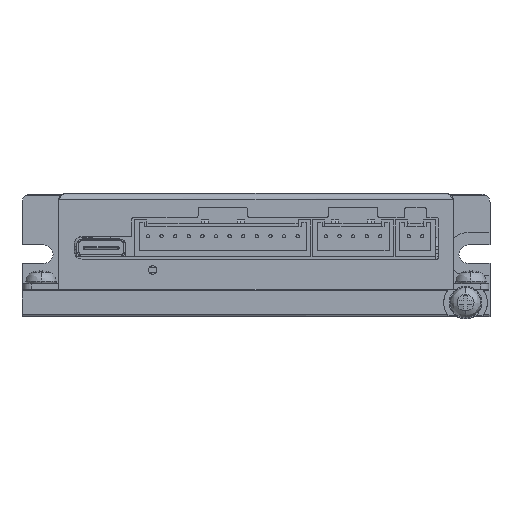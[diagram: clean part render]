
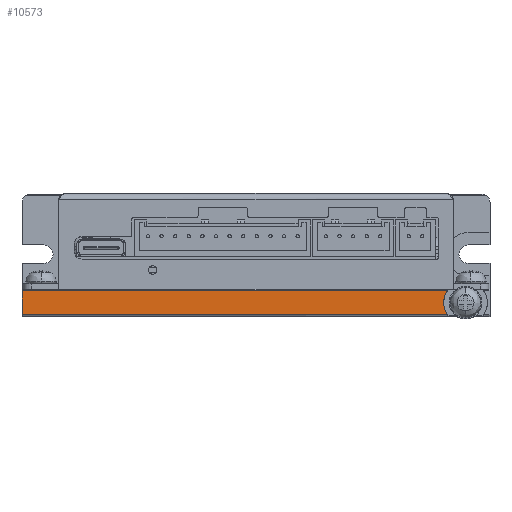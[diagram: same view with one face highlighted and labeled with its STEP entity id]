
A CAD part, top view. The second image highlights one B-rep face of the part: STEP entity #10573.
In plain terms, the highlighted planar face has unit normal (0, 0, 1).
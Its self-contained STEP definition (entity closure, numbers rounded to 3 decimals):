
#668=CARTESIAN_POINT('',(35.159,-0.3,55.6));
#670=DIRECTION('',(-1.,0.,0.));
#671=VECTOR('',#670,78.159);
#672=CARTESIAN_POINT('',(35.159,-0.3,55.6));
#673=LINE('',#672,#671);
#1044=DIRECTION('',(1.,0.,0.));
#1045=VECTOR('',#1044,78.159);
#1046=CARTESIAN_POINT('',(-43.,-4.7,55.6));
#1047=LINE('',#1046,#1045);
#1048=CARTESIAN_POINT('',(35.159,-4.7,55.6));
#2930=CARTESIAN_POINT('',(38.5,-2.5,55.6));
#2931=DIRECTION('',(0.,0.,1.));
#2932=DIRECTION('',(-0.835,0.55,0.));
#2933=AXIS2_PLACEMENT_3D('',#2930,#2931,#2932);
#2935=CARTESIAN_POINT('',(38.5,-2.5,55.6));
#2936=DIRECTION('',(0.,0.,1.));
#2937=DIRECTION('',(-1.,0.,0.));
#2938=AXIS2_PLACEMENT_3D('',#2935,#2936,#2937);
#2940=DIRECTION('',(0.,1.,0.));
#2941=VECTOR('',#2940,4.4);
#2942=CARTESIAN_POINT('',(-43.,-4.7,55.6));
#2943=LINE('',#2942,#2941);
#5669=CARTESIAN_POINT('',(-43.,-0.3,55.6));
#5670=VERTEX_POINT('',#5669);
#5671=CARTESIAN_POINT('',(-43.,-4.7,55.6));
#5672=VERTEX_POINT('',#5671);
#6092=VERTEX_POINT('',#668);
#6099=VERTEX_POINT('',#1048);
#6100=CARTESIAN_POINT('',(34.5,-2.5,55.6));
#6101=VERTEX_POINT('',#6100);
#10559=CARTESIAN_POINT('',(-43.,0.,55.6));
#10560=DIRECTION('',(0.,0.,1.));
#10561=DIRECTION('',(0.,-1.,0.));
#10562=AXIS2_PLACEMENT_3D('',#10559,#10560,#10561);
#10563=PLANE('',#10562);
#10565=ORIENTED_EDGE('',*,*,#10564,.T.);
#10567=ORIENTED_EDGE('',*,*,#10566,.T.);
#10568=ORIENTED_EDGE('',*,*,#8227,.F.);
#10569=ORIENTED_EDGE('',*,*,#7656,.T.);
#10570=ORIENTED_EDGE('',*,*,#7694,.F.);
#10571=EDGE_LOOP('',(#10565,#10567,#10568,#10569,#10570));
#10572=FACE_OUTER_BOUND('',#10571,.F.);
#10573=ADVANCED_FACE('',(#10572),#10563,.T.);
#2934=CIRCLE('',#2933,4.);
#2939=CIRCLE('',#2938,4.);
#7656=EDGE_CURVE('',#5672,#5670,#2943,.T.);
#7694=EDGE_CURVE('',#6092,#5670,#673,.T.);
#8227=EDGE_CURVE('',#5672,#6099,#1047,.T.);
#10564=EDGE_CURVE('',#6092,#6101,#2934,.T.);
#10566=EDGE_CURVE('',#6101,#6099,#2939,.T.);
